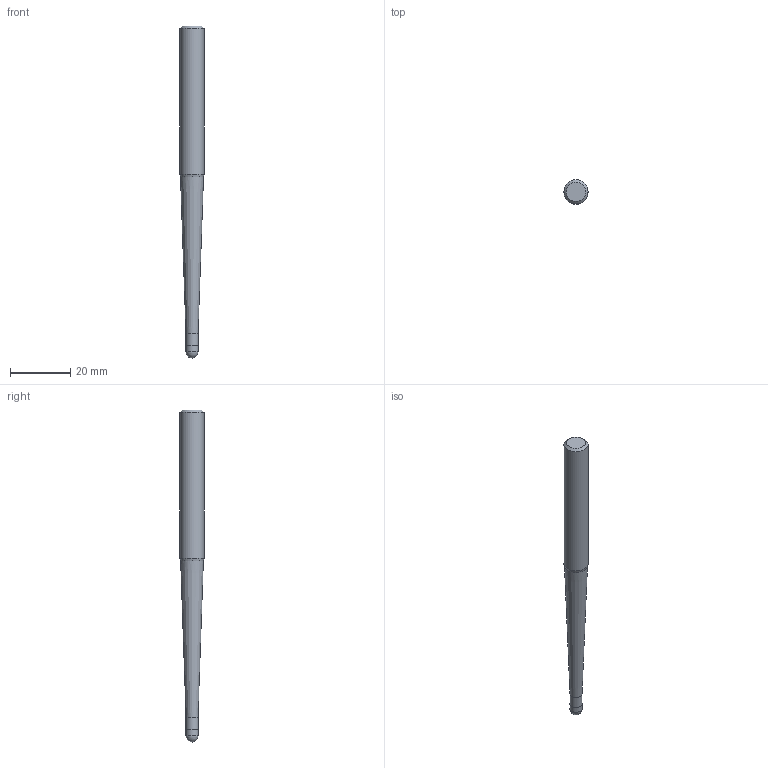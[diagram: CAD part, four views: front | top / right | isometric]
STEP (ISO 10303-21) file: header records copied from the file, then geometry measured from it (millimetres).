
FILE_DESCRIPTION((''),'2;1');
FILE_NAME('C:\Users\nsx150\AppData\Local\Temp\Mastercam 2021\SNAKH10GOD\TEMP.step','2021-10-21T13:33:37',(''),(''),'STEP Write','Mastercam 2021 ... CNC Software, Inc.','');
FILE_SCHEMA(('AUTOMOTIVE_DESIGN'));
Length unit declared in the file: millimetre
Products named in the file (1): None
Bounding box: 8 x 8 x 110 mm (x, y, z)
Volume: 4017 mm3; surface area: 2368.5 mm2
Topology: 2 solids, 2 shells, 10 faces, 16 edges, 9 vertices
Faces by surface type: plane 3, cylinder 3, cone 3, sphere 1
Full cylindrical faces by diameter (mm): 3.98 x1, 4 x1, 8 x1
Entity records: 232 total; most frequent: DIRECTION 40, CARTESIAN_POINT 28, AXIS2_PLACEMENT_3D 20, ORIENTED_EDGE 16, EDGE_LOOP 16, STYLED_ITEM 13, ADVANCED_FACE 10, FACE_BOUND 9
